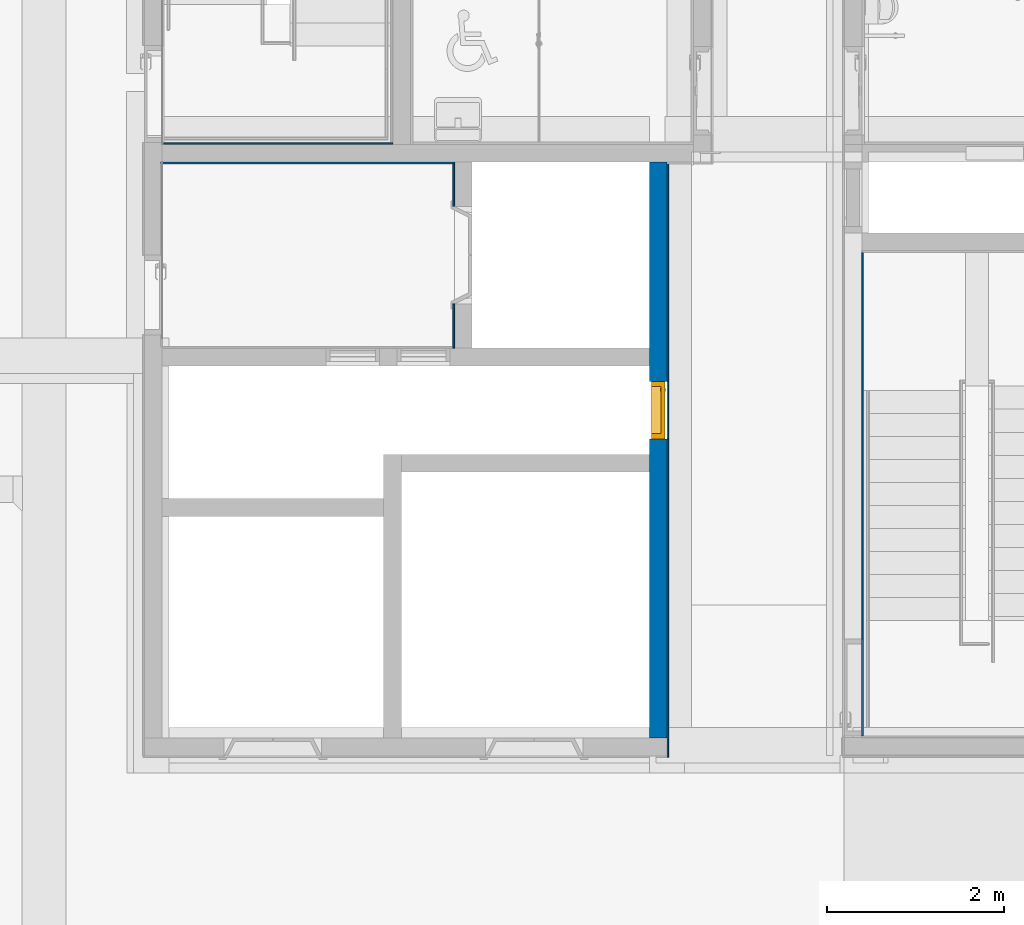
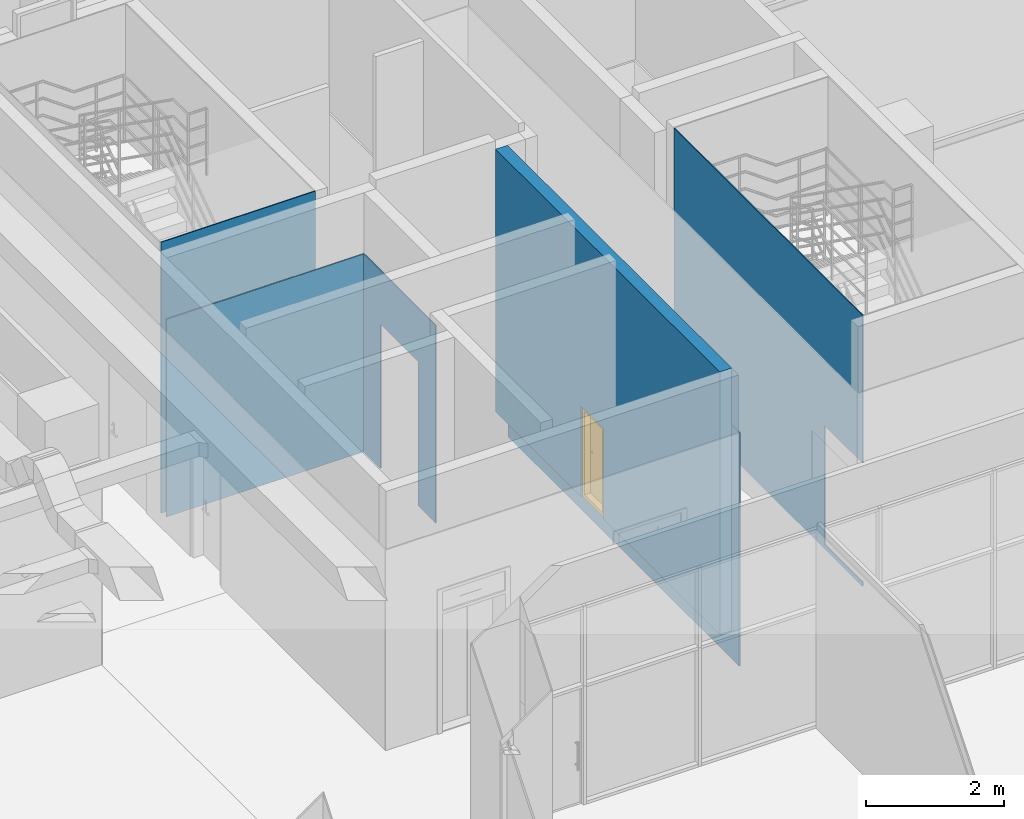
# One storey, part 42 of 100: 6 walls, 1 door, 4 openings.
"""IFC2X3 building model written with IfcOpenShell, lengths in millimetres."""

from ifc_helpers import new_model, entity, si_unit, converted_unit, derived_unit, direction, frame, frame_2d, origin, place, context, subcontext, project, spatial, polyline, rectangle, extrude, clip, bounded_halfspace, faceted_brep, source, transform, mapped, material, material_list, layer, layer_set, layer_usage, type_object, type_shapes, element, fill, save


model = new_model("IFC2X3")

# Units and contexts
model_context = context("Model", 3, precision=0.01, world=origin(), true_north=direction((6.123031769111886e-17, 1.0)))
body_context = subcontext(model_context, "Body", "Model", "MODEL_VIEW")
ifc_project = project(units=[si_unit("LENGTHUNIT", "METRE", prefix="MILLI"), si_unit("AREAUNIT", "SQUARE_METRE"), si_unit("VOLUMEUNIT", "CUBIC_METRE"), converted_unit("PLANEANGLEUNIT", "DEGREE", entity("IfcRatioMeasure", 0.017453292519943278), si_unit("PLANEANGLEUNIT", "RADIAN"), dimensions=[0, 0, 0, 0, 0, 0, 0]), si_unit("MASSUNIT", "GRAM", prefix="KILO"), derived_unit("MASSDENSITYUNIT", [(si_unit("MASSUNIT", "GRAM", prefix="KILO"), 1), (si_unit("LENGTHUNIT", "METRE"), -3)]), derived_unit("MOMENTOFINERTIAUNIT", [(si_unit("LENGTHUNIT", "METRE"), 4)]), si_unit("TIMEUNIT", "SECOND"), si_unit("FREQUENCYUNIT", "HERTZ"), si_unit("THERMODYNAMICTEMPERATUREUNIT", "DEGREE_CELSIUS"), derived_unit("THERMALTRANSMITTANCEUNIT", [(si_unit("MASSUNIT", "GRAM", prefix="KILO"), 1), (si_unit("THERMODYNAMICTEMPERATUREUNIT", "KELVIN"), -1), (si_unit("TIMEUNIT", "SECOND"), -3)]), derived_unit("VOLUMETRICFLOWRATEUNIT", [(si_unit("LENGTHUNIT", "METRE"), 3), (si_unit("TIMEUNIT", "SECOND"), -1)]), derived_unit("MASSFLOWRATEUNIT", [(si_unit("MASSUNIT", "GRAM", prefix="KILO"), 1), (si_unit("TIMEUNIT", "SECOND"), -1)]), derived_unit("ROTATIONALFREQUENCYUNIT", [(si_unit("TIMEUNIT", "SECOND"), -1)]), si_unit("ELECTRICCURRENTUNIT", "AMPERE"), si_unit("ELECTRICVOLTAGEUNIT", "VOLT"), si_unit("POWERUNIT", "WATT"), si_unit("FORCEUNIT", "NEWTON", prefix="KILO"), si_unit("ILLUMINANCEUNIT", "LUX"), si_unit("LUMINOUSFLUXUNIT", "LUMEN"), si_unit("LUMINOUSINTENSITYUNIT", "CANDELA"), derived_unit("USERDEFINED", [(si_unit("MASSUNIT", "GRAM", prefix="KILO"), -1), (si_unit("LENGTHUNIT", "METRE"), -2), (si_unit("TIMEUNIT", "SECOND"), 3), (si_unit("LUMINOUSFLUXUNIT", "LUMEN"), 1)]), derived_unit("SOUNDPOWERUNIT", [(si_unit("MASSUNIT", "GRAM", prefix="KILO"), 1), (si_unit("LENGTHUNIT", "METRE"), 2), (si_unit("TIMEUNIT", "SECOND"), -3)]), derived_unit("SOUNDPRESSUREUNIT", [(si_unit("MASSUNIT", "GRAM", prefix="KILO"), 1), (si_unit("LENGTHUNIT", "METRE"), -1), (si_unit("TIMEUNIT", "SECOND"), -2)]), derived_unit("LINEARVELOCITYUNIT", [(si_unit("LENGTHUNIT", "METRE"), 1), (si_unit("TIMEUNIT", "SECOND"), -1)]), si_unit("PRESSUREUNIT", "PASCAL"), derived_unit("USERDEFINED", [(si_unit("LENGTHUNIT", "METRE"), -2), (si_unit("MASSUNIT", "GRAM", prefix="KILO"), 1), (si_unit("TIMEUNIT", "SECOND"), -2)]), derived_unit("LINEARFORCEUNIT", [(si_unit("MASSUNIT", "GRAM", prefix="KILO"), 1), (si_unit("LENGTHUNIT", "METRE"), 1), (si_unit("TIMEUNIT", "SECOND"), -2), (si_unit("LENGTHUNIT", "METRE"), -1)]), derived_unit("PLANARFORCEUNIT", [(si_unit("MASSUNIT", "GRAM", prefix="KILO"), 1), (si_unit("LENGTHUNIT", "METRE"), 1), (si_unit("TIMEUNIT", "SECOND"), -2), (si_unit("LENGTHUNIT", "METRE"), -2)])], contexts=[model_context])

# Site, building, storey
site_placement = place(None, frame((-14167.972527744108, -657.2125860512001, 0.0)))
site = spatial("IfcSite", under=ifc_project, at=site_placement, Name="Default", CompositionType="ELEMENT")
building_placement = place(site_placement, origin())
building = spatial("IfcBuilding", under=site, at=building_placement, Name="Sample Building", CompositionType="ELEMENT")
storey_placement = place(building_placement, origin())
storey = spatial("IfcBuildingStorey", under=building, at=storey_placement, Name="지상 1층", CompositionType="ELEMENT", Elevation=0.0)

# Wall, opening, door
ifc_material_1 = material(Name="KBIMS-콘크리트")
ifc_layer_1 = layer(ifc_material_1, 200.0)
ifc_layer_set_1 = layer_set([ifc_layer_1], Name="기본 벽:WA111-철근콘크리트구조 벽 200mm_CW1")
ifc_layer_usage_1 = layer_usage(ifc_layer_set_1, "AXIS2", "NEGATIVE", 100.0)
wall_type_1 = type_object("IfcWallType", Name="기본 벽:WA111-철근콘크리트구조 벽 200mm_CW1", PredefinedType="STANDARD", material=ifc_layer_set_1)
wall_1_placement = place(storey_placement, frame((35867.972491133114, 22257.212311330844, 0.0), z_axis=(0.0, 0.0, 1.0), x_axis=(0.0, -1.0, 0.0)))
wall_1 = element("IfcWallStandardCase", 1, at=wall_1_placement, inside=storey, type_object=wall_type_1, material=ifc_layer_usage_1, Name="기본 벽:WA111-철근콘크리트구조 벽 200mm_CW1", ObjectType="기본 벽:WA111-철근콘크리트구조 벽 200mm_CW1", context=body_context, shape_type="Clipping", body=[
    clip(extrude(rectangle(XDim=200.00000000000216, YDim=6503.909364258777, at=frame_2d((3251.9546821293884, -9.876544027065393e-13), x_axis=(0.0, 1.0))), origin(), (0.0, 0.0, 1.0), 4650.000000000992), bounded_halfspace(frame((0.0, -100.0, 4650.0), z_axis=(0.0, 0.0, -1.0), x_axis=(0.0, 1.0, 0.0)), True, frame((0.0, -100.0, 4650.0), z_axis=(0.0, 0.0, -1.0), x_axis=(0.0, 1.0, 0.0)), polyline([(0.0, 0.0), (60960.0, 0.0), (60960.0, 1981199.9107361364), (60960.0, 1982391.5742260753), (1.3167664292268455e-09, 1982391.5742260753), (1.3167664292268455e-09, 1981200.0049346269), (0.0, 0.0)]))),
])
opening_1_placement = place(wall_1_placement, frame((2475.0, -100.0, 0.0)))
opening_1 = element("IfcOpeningElement", 2, at=opening_1_placement, cuts=wall_1, Name="DR872-샤프트 점검구(스테인리스 스틸):DR872-샤프트 점검구(스테인리스 스틸)_650x1600:1", ObjectType="Opening", context=body_context, shape_type="SweptSolid", body=[
    extrude(rectangle(XDim=1600.0, YDim=649.9999999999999, at=frame_2d((800.0, 324.99999999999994), x_axis=(1.0, 0.0))), frame((0.0, 0.0, 0.0), z_axis=(0.0, 1.0, 0.0), x_axis=(0.0, 0.0, 1.0)), (0.0, 0.0, 1.0), 200.0),
])
ifc_material_2 = material(Name="KBIMS-스테인리스 스틸_도금")
ifc_material_list = material_list([ifc_material_2, ifc_material_2, ifc_material_2, ifc_material_2])
door_style = type_object("IfcDoorStyle", Name="DR872-샤프트 점검구(스테인리스 스틸):DR872-샤프트 점검구(스테인리스 스틸)_650x1600", ConstructionType="NOTDEFINED", OperationType="SINGLE_SWING_LEFT", ParameterTakesPrecedence=False, Sizeable=False, material=ifc_material_list)
shared_shape = source(origin(), body_context, "Body", "Brep", [
    faceted_brep([(105.0, 125.0, 782.6794919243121), (109.14213562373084, 125.0, 785.85786437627), (102.50000000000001, 125.0, 787.0096189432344), (98.88228567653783, 125.0, 785.5111126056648), (100.17638090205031, 125.0, 780.6814834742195), (105.60660171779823, 125.0, 789.3933982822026), (112.32050807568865, 125.0, 790.0), (107.99038105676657, 125.0, 792.5000000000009), (109.488887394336, 125.0, 796.1177143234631), (114.31851652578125, 125.0, 794.8236190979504), (110.0, 125.0, 800.0), (115.0, 125.0, 800.0), (109.48888739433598, 125.0, 803.8822856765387), (114.31851652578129, 125.0, 805.1763809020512), (107.99038105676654, 125.0, 807.5000000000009), (112.32050807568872, 125.0, 810.0), (105.60660171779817, 125.0, 810.6066017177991), (109.14213562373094, 125.0, 814.1421356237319), (102.49999999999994, 125.0, 812.9903810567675), (105.0, 125.0, 817.3205080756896), (98.88228567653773, 125.0, 814.4888873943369), (100.17638090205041, 125.0, 819.3185165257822), (95.0, 125.0, 815.0), (95.0, 125.0, 820.0), (91.11771432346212, 125.0, 814.4888873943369), (89.8236190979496, 125.0, 819.3185165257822), (87.49999999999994, 125.0, 812.9903810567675), (85.0, 125.0, 817.3205080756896), (84.39339828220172, 125.0, 810.6066017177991), (80.85786437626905, 125.0, 814.142135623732), (82.00961894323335, 125.0, 807.5000000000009), (77.67949192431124, 125.0, 810.0), (75.6814834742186, 125.0, 805.1763809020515), (80.51111260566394, 125.0, 803.8822856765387), (75.0, 125.0, 800.0), (80.0, 125.0, 800.0), (75.68148347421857, 125.0, 794.8236190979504), (80.51111260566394, 125.0, 796.117714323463), (77.67949192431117, 125.0, 790.0), (82.00961894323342, 125.0, 792.5000000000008), (80.85786437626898, 125.0, 785.85786437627), (84.39339828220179, 125.0, 789.3933982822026), (85.0, 125.0, 782.6794919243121), (87.50000000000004, 125.0, 787.0096189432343), (89.8236190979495, 125.0, 780.6814834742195), (91.11771432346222, 125.0, 785.5111126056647), (95.0, 125.0, 780.0), (95.0, 125.0, 785.0), (105.0, 130.0, 817.3205080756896), (109.14213562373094, 130.0, 814.1421356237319), (102.49999999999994, 130.0, 812.9903810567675), (98.88228567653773, 130.0, 814.4888873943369), (100.17638090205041, 130.0, 819.3185165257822), (105.60660171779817, 130.0, 810.6066017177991), (112.32050807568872, 130.0, 810.0), (107.99038105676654, 130.0, 807.5000000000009), (109.48888739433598, 130.0, 803.8822856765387), (114.31851652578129, 130.0, 805.1763809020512), (110.0, 130.0, 800.0), (115.0, 130.0, 800.0), (109.488887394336, 130.0, 796.1177143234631), (114.31851652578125, 130.0, 794.8236190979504), (107.99038105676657, 130.0, 792.5000000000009), (112.32050807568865, 130.0, 790.0), (105.60660171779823, 130.0, 789.3933982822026), (109.14213562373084, 130.0, 785.85786437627), (102.50000000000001, 130.0, 787.0096189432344), (105.0, 130.0, 782.6794919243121), (98.88228567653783, 130.0, 785.5111126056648), (100.17638090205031, 130.0, 780.6814834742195), (95.0, 130.0, 785.0), (95.0, 130.0, 780.0), (91.11771432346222, 130.0, 785.5111126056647), (89.8236190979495, 130.0, 780.6814834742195), (87.50000000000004, 130.0, 787.0096189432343), (85.0, 130.0, 782.6794919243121), (84.39339828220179, 130.0, 789.3933982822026), (80.85786437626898, 130.0, 785.85786437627), (82.00961894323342, 130.0, 792.5000000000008), (77.67949192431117, 130.0, 790.0), (75.68148347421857, 130.0, 794.8236190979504), (80.51111260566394, 130.0, 796.117714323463), (75.0, 130.0, 800.0), (80.0, 130.0, 800.0), (75.6814834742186, 130.0, 805.1763809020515), (80.51111260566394, 130.0, 803.8822856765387), (77.67949192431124, 130.0, 810.0), (82.00961894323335, 130.0, 807.5000000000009), (80.85786437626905, 130.0, 814.142135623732), (84.39339828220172, 130.0, 810.6066017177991), (85.0, 130.0, 817.3205080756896), (87.49999999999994, 130.0, 812.9903810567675), (89.8236190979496, 130.0, 819.3185165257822), (91.11771432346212, 130.0, 814.4888873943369), (95.0, 130.0, 820.0), (95.0, 130.0, 815.0)], [[[0, 1, 2]], [[0, 2, 3]], [[3, 4, 0]], [[2, 1, 5]], [[6, 5, 1]], [[7, 5, 6]], [[8, 7, 6]], [[8, 6, 9]], [[8, 9, 10]], [[10, 9, 11]], [[12, 10, 11]], [[12, 11, 13]], [[14, 12, 13]], [[14, 13, 15]], [[16, 14, 15]], [[15, 17, 16]], [[17, 18, 16]], [[18, 17, 19]], [[18, 19, 20]], [[21, 20, 19]], [[20, 21, 22]], [[22, 21, 23]], [[23, 24, 22]], [[24, 23, 25]], [[24, 25, 26]], [[27, 26, 25]], [[27, 28, 26]], [[27, 29, 28]], [[30, 28, 29]], [[31, 30, 29]], [[32, 30, 31]], [[33, 30, 32]], [[33, 32, 34]], [[34, 35, 33]], [[36, 35, 34]], [[36, 37, 35]], [[37, 36, 38]], [[39, 37, 38]], [[39, 38, 40]], [[39, 40, 41]], [[40, 42, 41]], [[41, 42, 43]], [[43, 42, 44]], [[44, 45, 43]], [[46, 45, 44]], [[4, 47, 46]], [[45, 46, 47]], [[4, 3, 47]], [[48, 49, 50]], [[48, 50, 51]], [[51, 52, 48]], [[50, 49, 53]], [[54, 53, 49]], [[55, 53, 54]], [[56, 55, 54]], [[56, 54, 57]], [[56, 57, 58]], [[58, 57, 59]], [[60, 58, 59]], [[60, 59, 61]], [[62, 60, 61]], [[62, 61, 63]], [[64, 62, 63]], [[63, 65, 64]], [[65, 66, 64]], [[66, 65, 67]], [[66, 67, 68]], [[69, 68, 67]], [[68, 69, 70]], [[70, 69, 71]], [[71, 72, 70]], [[72, 71, 73]], [[72, 73, 74]], [[75, 74, 73]], [[75, 76, 74]], [[75, 77, 76]], [[78, 76, 77]], [[79, 78, 77]], [[80, 78, 79]], [[81, 78, 80]], [[81, 80, 82]], [[82, 83, 81]], [[84, 83, 82]], [[84, 85, 83]], [[85, 84, 86]], [[87, 85, 86]], [[87, 86, 88]], [[87, 88, 89]], [[88, 90, 89]], [[89, 90, 91]], [[91, 90, 92]], [[92, 93, 91]], [[94, 93, 92]], [[52, 95, 94]], [[93, 94, 95]], [[52, 51, 95]], [[10, 58, 60, 8]], [[8, 60, 62, 7]], [[2, 5, 64, 66]], [[62, 64, 5, 7]], [[3, 2, 66, 68]], [[70, 47, 3, 68]], [[45, 72, 74, 43]], [[43, 74, 76, 41]], [[37, 39, 78, 81]], [[76, 78, 39, 41]], [[35, 37, 81, 83]], [[45, 47, 70, 72]], [[35, 83, 85, 33]], [[33, 85, 87, 30]], [[26, 28, 89, 91]], [[87, 89, 28, 30]], [[24, 26, 91, 93]], [[95, 22, 24, 93]], [[20, 51, 50, 18]], [[18, 50, 53, 16]], [[12, 14, 55, 56]], [[53, 55, 14, 16]], [[10, 12, 56, 58]], [[20, 22, 95, 51]], [[57, 13, 11, 59]], [[54, 15, 13, 57]], [[19, 17, 49, 48]], [[54, 49, 17, 15]], [[21, 19, 48, 52]], [[23, 21, 52, 94]], [[92, 25, 23, 94]], [[90, 27, 25, 92]], [[31, 29, 88, 86]], [[90, 88, 29, 27]], [[32, 31, 86, 84]], [[34, 32, 84, 82]], [[80, 36, 34, 82]], [[79, 38, 36, 80]], [[42, 40, 77, 75]], [[79, 77, 40, 38]], [[44, 42, 75, 73]], [[46, 44, 73, 71]], [[69, 4, 46, 71]], [[67, 0, 4, 69]], [[6, 1, 65, 63]], [[67, 65, 1, 0]], [[9, 6, 63, 61]], [[11, 9, 61, 59]]]),
    faceted_brep([(85.0, 180.0, 782.6794919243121), (80.85786437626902, 180.0, 785.85786437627), (87.4999999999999, 180.0, 787.0096189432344), (91.11771432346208, 180.0, 785.5111126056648), (89.82361909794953, 180.0, 780.6814834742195), (84.39339828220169, 180.0, 789.3933982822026), (77.6794919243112, 180.0, 790.0), (82.00961894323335, 180.0, 792.5000000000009), (80.51111260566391, 180.0, 796.1177143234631), (75.6814834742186, 180.0, 794.8236190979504), (80.0, 180.0, 800.0), (75.0, 180.0, 800.0), (80.51111260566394, 180.0, 803.8822856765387), (75.68148347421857, 180.0, 805.1763809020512), (82.00961894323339, 180.0, 807.5000000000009), (77.67949192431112, 180.0, 810.0), (84.39339828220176, 180.0, 810.6066017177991), (80.85786437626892, 180.0, 814.1421356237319), (87.49999999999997, 180.0, 812.9903810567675), (85.0, 180.0, 817.3205080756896), (91.11771432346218, 180.0, 814.4888873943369), (89.82361909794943, 180.0, 819.3185165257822), (95.0, 180.0, 815.0), (95.0, 180.0, 820.0), (98.8822856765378, 180.0, 814.4888873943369), (100.17638090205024, 180.0, 819.3185165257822), (102.49999999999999, 180.0, 812.9903810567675), (105.0, 180.0, 817.3205080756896), (105.6066017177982, 180.0, 810.6066017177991), (109.1421356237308, 180.0, 814.142135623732), (107.99038105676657, 180.0, 807.5000000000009), (112.32050807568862, 180.0, 810.0), (114.31851652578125, 180.0, 805.1763809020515), (109.48888739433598, 180.0, 803.8822856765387), (115.0, 180.0, 800.0), (110.0, 180.0, 800.0), (114.31851652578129, 180.0, 794.8236190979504), (109.48888739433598, 180.0, 796.117714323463), (112.32050807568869, 180.0, 790.0), (107.9903810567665, 180.0, 792.5000000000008), (109.14213562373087, 180.0, 785.85786437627), (105.60660171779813, 180.0, 789.3933982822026), (105.0, 180.0, 782.6794919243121), (102.49999999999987, 180.0, 787.0096189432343), (100.17638090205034, 180.0, 780.6814834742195), (98.8822856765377, 180.0, 785.5111126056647), (95.0, 180.0, 780.0), (95.0, 180.0, 785.0), (85.0, 175.0, 817.3205080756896), (80.85786437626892, 175.0, 814.1421356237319), (87.49999999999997, 175.0, 812.9903810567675), (91.11771432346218, 175.0, 814.4888873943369), (89.82361909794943, 175.0, 819.3185165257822), (84.39339828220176, 175.0, 810.6066017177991), (77.67949192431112, 175.0, 810.0), (82.00961894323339, 175.0, 807.5000000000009), (80.51111260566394, 175.0, 803.8822856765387), (75.68148347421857, 175.0, 805.1763809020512), (80.0, 175.0, 800.0), (75.0, 175.0, 800.0), (80.51111260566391, 175.0, 796.1177143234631), (75.6814834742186, 175.0, 794.8236190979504), (82.00961894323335, 175.0, 792.5000000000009), (77.6794919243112, 175.0, 790.0), (84.39339828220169, 175.0, 789.3933982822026), (80.85786437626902, 175.0, 785.85786437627), (87.4999999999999, 175.0, 787.0096189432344), (85.0, 175.0, 782.6794919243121), (91.11771432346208, 175.0, 785.5111126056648), (89.82361909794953, 175.0, 780.6814834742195), (95.0, 175.0, 785.0), (95.0, 175.0, 780.0), (98.8822856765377, 175.0, 785.5111126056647), (100.17638090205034, 175.0, 780.6814834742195), (102.49999999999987, 175.0, 787.0096189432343), (105.0, 175.0, 782.6794919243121), (105.60660171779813, 175.0, 789.3933982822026), (109.14213562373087, 175.0, 785.85786437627), (107.9903810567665, 175.0, 792.5000000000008), (112.32050807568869, 175.0, 790.0), (114.31851652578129, 175.0, 794.8236190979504), (109.48888739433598, 175.0, 796.117714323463), (115.0, 175.0, 800.0), (110.0, 175.0, 800.0), (114.31851652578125, 175.0, 805.1763809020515), (109.48888739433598, 175.0, 803.8822856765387), (112.32050807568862, 175.0, 810.0), (107.99038105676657, 175.0, 807.5000000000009), (109.1421356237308, 175.0, 814.142135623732), (105.6066017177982, 175.0, 810.6066017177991), (105.0, 175.0, 817.3205080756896), (102.49999999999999, 175.0, 812.9903810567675), (100.17638090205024, 175.0, 819.3185165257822), (98.8822856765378, 175.0, 814.4888873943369), (95.0, 175.0, 820.0), (95.0, 175.0, 815.0)], [[[0, 1, 2]], [[0, 2, 3]], [[3, 4, 0]], [[2, 1, 5]], [[6, 5, 1]], [[7, 5, 6]], [[8, 7, 6]], [[8, 6, 9]], [[8, 9, 10]], [[10, 9, 11]], [[12, 10, 11]], [[12, 11, 13]], [[14, 12, 13]], [[14, 13, 15]], [[16, 14, 15]], [[15, 17, 16]], [[17, 18, 16]], [[18, 17, 19]], [[18, 19, 20]], [[21, 20, 19]], [[20, 21, 22]], [[22, 21, 23]], [[23, 24, 22]], [[24, 23, 25]], [[24, 25, 26]], [[27, 26, 25]], [[27, 28, 26]], [[27, 29, 28]], [[30, 28, 29]], [[31, 30, 29]], [[32, 30, 31]], [[33, 30, 32]], [[33, 32, 34]], [[34, 35, 33]], [[36, 35, 34]], [[36, 37, 35]], [[37, 36, 38]], [[39, 37, 38]], [[39, 38, 40]], [[39, 40, 41]], [[40, 42, 41]], [[41, 42, 43]], [[43, 42, 44]], [[44, 45, 43]], [[46, 45, 44]], [[4, 47, 46]], [[45, 46, 47]], [[4, 3, 47]], [[48, 49, 50]], [[48, 50, 51]], [[51, 52, 48]], [[50, 49, 53]], [[54, 53, 49]], [[55, 53, 54]], [[56, 55, 54]], [[56, 54, 57]], [[56, 57, 58]], [[58, 57, 59]], [[60, 58, 59]], [[60, 59, 61]], [[62, 60, 61]], [[62, 61, 63]], [[64, 62, 63]], [[63, 65, 64]], [[65, 66, 64]], [[66, 65, 67]], [[66, 67, 68]], [[69, 68, 67]], [[68, 69, 70]], [[70, 69, 71]], [[71, 72, 70]], [[72, 71, 73]], [[72, 73, 74]], [[75, 74, 73]], [[75, 76, 74]], [[75, 77, 76]], [[78, 76, 77]], [[79, 78, 77]], [[80, 78, 79]], [[81, 78, 80]], [[81, 80, 82]], [[82, 83, 81]], [[84, 83, 82]], [[84, 85, 83]], [[85, 84, 86]], [[87, 85, 86]], [[87, 86, 88]], [[87, 88, 89]], [[88, 90, 89]], [[89, 90, 91]], [[91, 90, 92]], [[92, 93, 91]], [[94, 93, 92]], [[52, 95, 94]], [[93, 94, 95]], [[52, 51, 95]], [[35, 83, 85, 33]], [[33, 85, 87, 30]], [[26, 28, 89, 91]], [[87, 89, 28, 30]], [[24, 26, 91, 93]], [[95, 22, 24, 93]], [[20, 51, 50, 18]], [[18, 50, 53, 16]], [[12, 14, 55, 56]], [[53, 55, 14, 16]], [[10, 12, 56, 58]], [[20, 22, 95, 51]], [[10, 58, 60, 8]], [[8, 60, 62, 7]], [[2, 5, 64, 66]], [[62, 64, 5, 7]], [[3, 2, 66, 68]], [[70, 47, 3, 68]], [[45, 72, 74, 43]], [[43, 74, 76, 41]], [[37, 39, 78, 81]], [[76, 78, 39, 41]], [[35, 37, 81, 83]], [[45, 47, 70, 72]], [[80, 36, 34, 82]], [[79, 38, 36, 80]], [[42, 40, 77, 75]], [[79, 77, 40, 38]], [[44, 42, 75, 73]], [[46, 44, 73, 71]], [[69, 4, 46, 71]], [[67, 0, 4, 69]], [[6, 1, 65, 63]], [[67, 65, 1, 0]], [[9, 6, 63, 61]], [[11, 9, 61, 59]], [[57, 13, 11, 59]], [[54, 15, 13, 57]], [[19, 17, 49, 48]], [[54, 49, 17, 15]], [[21, 19, 48, 52]], [[23, 21, 52, 94]], [[92, 25, 23, 94]], [[90, 27, 25, 92]], [[31, 29, 88, 86]], [[90, 88, 29, 27]], [[32, 31, 86, 84]], [[34, 32, 84, 82]]]),
    faceted_brep([(620.0, 175.0, 1570.0), (30.0, 175.0, 1570.0), (30.0, 130.0, 1570.0), (620.0, 130.0, 1570.0), (620.0, 175.0, 30.0), (620.0, 130.0, 30.0), (30.0, 130.0, 30.0), (30.0, 175.0, 30.0)], [[[0, 1, 2, 3]], [[4, 5, 6, 7]], [[1, 0, 4, 7]], [[2, 1, 7, 6]], [[3, 2, 6, 5]], [[0, 3, 5, 4]]]),
    faceted_brep([(30.0, 130.0, 1570.0), (30.0, 175.0, 1570.0), (620.0, 175.0, 1570.0), (620.0, 130.0, 1570.0), (60.0, 25.0, 1540.0), (60.0, 130.0, 1540.0), (590.0, 130.0, 1540.0), (590.0, 25.0, 1540.0), (0.0, 175.0, 1600.0), (0.0, 25.0, 1600.0), (650.0, 25.0, 1600.0), (650.0, 175.0, 1600.0), (620.0, 175.0, 30.0), (620.0, 130.0, 30.0), (590.0, 130.0, 60.0), (590.0, 25.0, 60.0), (650.0, 25.0, 0.0), (650.0, 175.0, 0.0), (30.0, 175.0, 30.0), (30.0, 130.0, 30.0), (60.0, 130.0, 60.0), (60.0, 25.0, 60.0), (0.0, 25.0, 0.0), (0.0, 175.0, 0.0)], [[[0, 1, 2, 3]], [[4, 5, 6, 7]], [[8, 9, 10, 11]], [[3, 2, 12, 13]], [[7, 6, 14, 15]], [[11, 10, 16, 17]], [[13, 12, 18, 19]], [[15, 14, 20, 21]], [[17, 16, 22, 23]], [[19, 18, 1, 0]], [[3, 13, 19, 0], [5, 20, 14, 6]], [[21, 20, 5, 4]], [[7, 15, 21, 4], [9, 22, 16, 10]], [[23, 22, 9, 8]], [[11, 17, 23, 8], [1, 18, 12, 2]]], outer=[[True], [True], [True], [True], [True], [True], [True], [True], [True], [True], [True, False], [True], [False, True], [True], [True, False]]),
])
type_shapes(door_style, [shared_shape])
door_placement = place(opening_1_placement, frame((2.5062981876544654e-06, 0.0, 0.0)))
door = element("IfcDoor", 3, at=door_placement, inside=storey, type_object=door_style, material=ifc_material_2, Name="DR872-샤프트 점검구(스테인리스 스틸):DR872-샤프트 점검구(스테인리스 스틸)_650x1600", ObjectType="DR872-샤프트 점검구(스테인리스 스틸):DR872-샤프트 점검구(스테인리스 스틸)_650x1600", OverallHeight=1600.0, OverallWidth=649.9999999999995, context=body_context, shape_type="MappedRepresentation", body=[
    mapped(shared_shape, transform((0.0, 0.0, 0.0), scale=1.0)),
])
fill(opening_1, door)

# Wall, opening
ifc_material_3 = material(Name="WA611-수성페인트 (내부) 벽 (3회)")
ifc_layer_2 = layer(ifc_material_3, 1.0)
ifc_material_4 = material(Name="WA551-시멘트모르타르 (내부) 벽 18mm")
ifc_layer_3 = layer(ifc_material_4, 16.0)
ifc_material_5 = material(Name="WA555-콘크리트면정리 벽 (내부)")
ifc_layer_4 = layer(ifc_material_5, 1.0)
ifc_layer_set_2 = layer_set([ifc_layer_2, ifc_layer_3, ifc_layer_4], Name="기본 벽:A1-32-06A-콘크리트면정리, 시멘트모르타르(미장용), 수성페인트(내부) (18mm)")
ifc_layer_usage_2 = layer_usage(ifc_layer_set_2, "AXIS2", "NEGATIVE", 9.000000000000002)
wall_type_2 = type_object("IfcWallType", Name="기본 벽:A1-32-06A-콘크리트면정리, 시멘트모르타르(미장용), 수성페인트(내부) (18mm)", PredefinedType="STANDARD", material=ifc_layer_set_2)
wall_2_placement = place(storey_placement, frame((35976.972491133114, 22239.194894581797, -500.0), z_axis=(0.0, 0.0, 1.0), x_axis=(0.0, -1.0, 0.0)))
wall_2 = element("IfcWallStandardCase", 4, at=wall_2_placement, inside=storey, type_object=wall_type_2, material=ifc_layer_usage_2, Name="기본 벽:A1-32-06A-콘크리트면정리, 시멘트모르타르(미장용), 수성페인트(내부) (18mm)", ObjectType="기본 벽:A1-32-06A-콘크리트면정리, 시멘트모르타르(미장용), 수성페인트(내부) (18mm)", context=body_context, shape_type="SweptSolid", body=[
    extrude(rectangle(XDim=6703.909364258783, YDim=18.000000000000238, at=frame_2d((3351.9546821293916, -2.1538326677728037e-12), x_axis=(-1.0, 0.0))), origin(), (0.0, 0.0, 1.0), 4130.000000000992),
])
opening_2_placement = place(wall_2_placement, origin())
element("IfcOpeningElement", 5, at=opening_2_placement, cuts=wall_2, Name="기본 벽:A1-32-06A-콘크리트면정리, 시멘트모르타르(미장용), 수성페인트(내부) (18mm)", ObjectType="Opening", context=body_context, shape_type="SweptSolid", body=[
    extrude(rectangle(XDim=1600.0, YDim=649.9999999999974, at=frame_2d((-1.0800249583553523e-12, 0.0), x_axis=(0.0, 1.0))), frame((2781.982585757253, -1733.0, 1300.0), z_axis=(0.0, 1.0, 0.0), x_axis=(-1.0, 0.0, 0.0)), (0.0, 0.0, 1.0), 3048.0),
])

# Wall
ifc_layer_usage_3 = layer_usage(ifc_layer_set_2, "AXIS2", "POSITIVE", -9.000000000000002)
wall_3_placement = place(storey_placement, frame((30248.12581445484, 22248.194894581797, 80.0)))
element("IfcWallStandardCase", 6, at=wall_3_placement, inside=storey, type_object=wall_type_2, material=ifc_layer_usage_3, Name="기본 벽:A1-32-06A-콘크리트면정리, 시멘트모르타르(미장용), 수성페인트(내부) (18mm)", ObjectType="기본 벽:A1-32-06A-콘크리트면정리, 시멘트모르타르(미장용), 수성페인트(내부) (18mm)", context=body_context, shape_type="SweptSolid", body=[
    extrude(rectangle(XDim=3319.846676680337, YDim=18.000000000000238, at=frame_2d((1659.9233383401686, -2.1369572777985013e-12), x_axis=(-1.0, 0.0))), origin(), (0.0, 0.0, 1.0), 3500.0000000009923),
])

# Wall, opening
ifc_layer_usage_4 = layer_usage(ifc_layer_set_2, "AXIS2", "POSITIVE", -9.000000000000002)
wall_4_placement = place(storey_placement, frame((33558.97249113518, 22239.194894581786, 80.0), z_axis=(0.0, 0.0, 1.0), x_axis=(0.0, -1.0, 0.0)))
wall_4 = element("IfcWallStandardCase", 7, at=wall_4_placement, inside=storey, type_object=wall_type_2, material=ifc_layer_usage_4, Name="기본 벽:A1-32-06A-콘크리트면정리, 시멘트모르타르(미장용), 수성페인트(내부) (18mm)", ObjectType="기본 벽:A1-32-06A-콘크리트면정리, 시멘트모르타르(미장용), 수성페인트(내부) (18mm)", context=body_context, shape_type="SweptSolid", body=[
    extrude(rectangle(XDim=2081.9825865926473, YDim=18.00000000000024, at=frame_2d((1040.9912932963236, -2.1662671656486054e-12), x_axis=(1.0, 0.0))), origin(), (0.0, 0.0, 1.0), 3500.0000000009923),
])
opening_3_placement = place(wall_4_placement, origin())
element("IfcOpeningElement", 8, at=opening_3_placement, cuts=wall_4, Name="기본 벽:A1-32-06A-콘크리트면정리, 시멘트모르타르(미장용), 수성페인트(내부) (18mm)", ObjectType="Opening", context=body_context, shape_type="SweptSolid", body=[
    extrude(rectangle(XDim=2549.9999999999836, YDim=1099.9999999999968, at=frame_2d((-2.2737367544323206e-13, 2.1600499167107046e-12), x_axis=(1.0, 0.0))), frame((1031.982584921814, -1315.0, 1275.0), z_axis=(0.0, 1.0, 0.0), x_axis=(0.0, 0.0, 1.0)), (0.0, 0.0, 1.0), 3048.0),
])

# Wall
ifc_layer_usage_5 = layer_usage(ifc_layer_set_2, "AXIS2", "POSITIVE", -9.000000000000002)
wall_5_placement = place(storey_placement, frame((32867.97249113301, 22466.19489458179, 0.0), z_axis=(0.0, 0.0, 1.0), x_axis=(-1.0, 0.0, 0.0)))
element("IfcWallStandardCase", 9, at=wall_5_placement, inside=storey, type_object=wall_type_2, material=ifc_layer_usage_5, Name="기본 벽:A1-32-06A-콘크리트면정리, 시멘트모르타르(미장용), 수성페인트(내부) (18mm)", ObjectType="기본 벽:A1-32-06A-콘크리트면정리, 시멘트모르타르(미장용), 수성페인트(내부) (18mm)", context=body_context, shape_type="SweptSolid", body=[
    extrude(rectangle(XDim=2582.008729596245, YDim=18.00000000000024, at=frame_2d((1291.0043647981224, -2.1662671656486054e-12), x_axis=(-1.0, 0.0))), origin(), (0.0, 0.0, 1.0), 4800.000000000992),
])

# Wall, opening
ifc_layer_usage_6 = layer_usage(ifc_layer_set_2, "AXIS2", "POSITIVE", -9.000000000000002)
wall_6_placement = place(storey_placement, frame((38176.963798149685, 15775.194878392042, 0.0), z_axis=(0.0, 0.0, 1.0), x_axis=(0.0, 1.0, 0.0)))
wall_6 = element("IfcWallStandardCase", 10, at=wall_6_placement, inside=storey, type_object=wall_type_2, material=ifc_layer_usage_6, Name="기본 벽:A1-32-06A-콘크리트면정리, 시멘트모르타르(미장용), 수성페인트(내부) (18mm)", ObjectType="기본 벽:A1-32-06A-콘크리트면정리, 시멘트모르타르(미장용), 수성페인트(내부) (18mm)", context=body_context, shape_type="SweptSolid", body=[
    extrude(rectangle(XDim=5463.999996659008, YDim=18.00000000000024, at=frame_2d((2731.999998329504, -2.1662671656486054e-12), x_axis=(-1.0, 0.0))), origin(), (0.0, 0.0, 1.0), 4800.000000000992),
])
opening_4_placement = place(wall_6_placement, origin())
element("IfcOpeningElement", 11, at=opening_4_placement, cuts=wall_6, Name="기본 벽:A1-32-06A-콘크리트면정리, 시멘트모르타르(미장용), 수성페인트(내부) (18mm)", ObjectType="Opening", context=body_context, shape_type="SweptSolid", body=[
    extrude(rectangle(XDim=2099.999999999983, YDim=1099.999999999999, at=frame_2d((1.0800249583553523e-12, 0.0), x_axis=(0.0, 1.0))), frame((549.9653292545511, -1515.0, 1130.0), z_axis=(0.0, 1.0, 0.0), x_axis=(-1.0, 0.0, 0.0)), (0.0, 0.0, 1.0), 3048.0),
])

save(model, "model.ifc")
